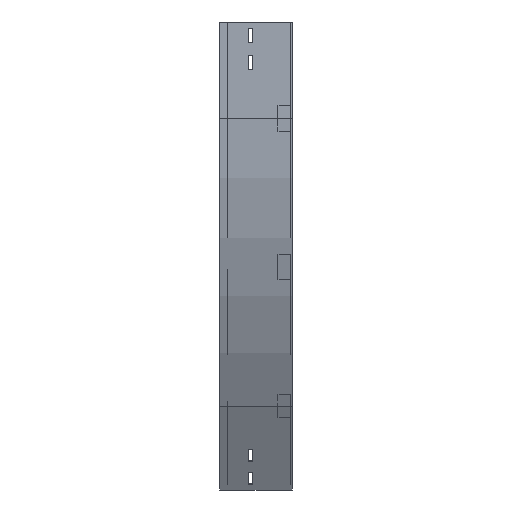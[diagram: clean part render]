
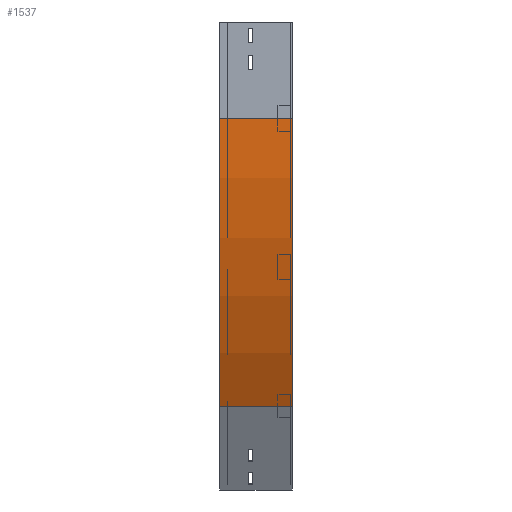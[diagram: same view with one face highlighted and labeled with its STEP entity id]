
A CAD part, left-side view. The second image highlights one B-rep face of the part: STEP entity #1537.
In plain terms, the highlighted cylindrical face has radius 900 mm (diameter 1800 mm), a partial arc.
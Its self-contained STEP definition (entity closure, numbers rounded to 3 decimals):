
#226 = VERTEX_POINT ( 'NONE', #2794 ) ;
#421 = CARTESIAN_POINT ( 'NONE',  ( 900., 0., -150. ) ) ;
#492 = CARTESIAN_POINT ( 'NONE',  ( 0., 0., -150. ) ) ;
#506 = DIRECTION ( 'NONE',  ( 0., -1., 0. ) ) ;
#746 = DIRECTION ( 'NONE',  ( 0., 0., -1. ) ) ;
#848 = EDGE_CURVE ( 'NONE', #3223, #3604, #2637, .T. ) ;
#864 = VERTEX_POINT ( 'NONE', #2324 ) ;
#903 = VECTOR ( 'NONE', #3302, 1000. ) ;
#1195 = EDGE_CURVE ( 'NONE', #3223, #226, #3006, .T. ) ;
#1207 = DIRECTION ( 'NONE',  ( -1., 0., 0. ) ) ;
#1210 = ORIENTED_EDGE ( 'NONE', *, *, #1195, .T. ) ;
#1498 = DIRECTION ( 'NONE',  ( 0., -1., 0. ) ) ;
#1537 = ADVANCED_FACE ( 'NONE', ( #2547 ), #1955, .T. ) ;
#1796 = CARTESIAN_POINT ( 'NONE',  ( 900., 0., -150. ) ) ;
#1850 = LINE ( 'NONE', #2402, #903 ) ;
#1955 = CYLINDRICAL_SURFACE ( 'NONE', #2395, 900. ) ;
#1959 = DIRECTION ( 'NONE',  ( -1., 0., 0. ) ) ;
#1965 = DIRECTION ( 'NONE',  ( 0., -1., 0. ) ) ;
#2259 = ORIENTED_EDGE ( 'NONE', *, *, #3372, .F. ) ;
#2324 = CARTESIAN_POINT ( 'NONE',  ( 120.577, 0., -600. ) ) ;
#2390 = ORIENTED_EDGE ( 'NONE', *, *, #848, .F. ) ;
#2395 = AXIS2_PLACEMENT_3D ( 'NONE', #421, #3415, #746 ) ;
#2402 = CARTESIAN_POINT ( 'NONE',  ( 120.577, 0., -600. ) ) ;
#2547 = FACE_OUTER_BOUND ( 'NONE', #3016, .T. ) ;
#2586 = AXIS2_PLACEMENT_3D ( 'NONE', #1796, #1498, #1207 ) ;
#2637 = LINE ( 'NONE', #3217, #2764 ) ;
#2764 = VECTOR ( 'NONE', #1965, 1000. ) ;
#2786 = ORIENTED_EDGE ( 'NONE', *, *, #3801, .T. ) ;
#2794 = CARTESIAN_POINT ( 'NONE',  ( 120.577, 112.5, -600. ) ) ;
#2857 = CARTESIAN_POINT ( 'NONE',  ( 900., 112.5, -150. ) ) ;
#2946 = CARTESIAN_POINT ( 'NONE',  ( 0., 112.5, -150. ) ) ;
#3006 = CIRCLE ( 'NONE', #3749, 900. ) ;
#3016 = EDGE_LOOP ( 'NONE', ( #2259, #2390, #1210, #2786 ) ) ;
#3217 = CARTESIAN_POINT ( 'NONE',  ( 0., 0., -150. ) ) ;
#3223 = VERTEX_POINT ( 'NONE', #2946 ) ;
#3302 = DIRECTION ( 'NONE',  ( 0., -1., 0. ) ) ;
#3372 = EDGE_CURVE ( 'NONE', #3604, #864, #3824, .T. ) ;
#3415 = DIRECTION ( 'NONE',  ( 0., -1., 0. ) ) ;
#3604 = VERTEX_POINT ( 'NONE', #492 ) ;
#3749 = AXIS2_PLACEMENT_3D ( 'NONE', #2857, #506, #1959 ) ;
#3801 = EDGE_CURVE ( 'NONE', #226, #864, #1850, .T. ) ;
#3824 = CIRCLE ( 'NONE', #2586, 900. ) ;
